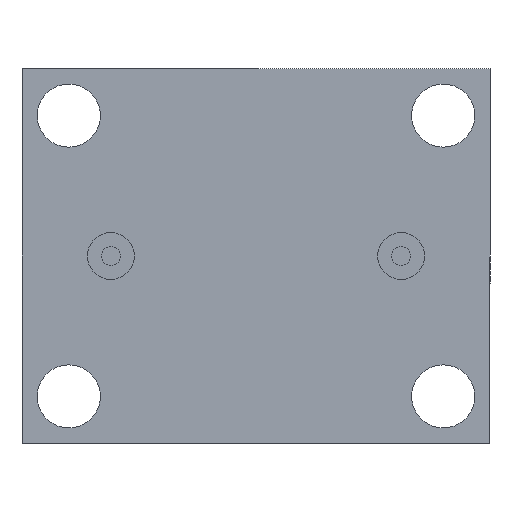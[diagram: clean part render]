
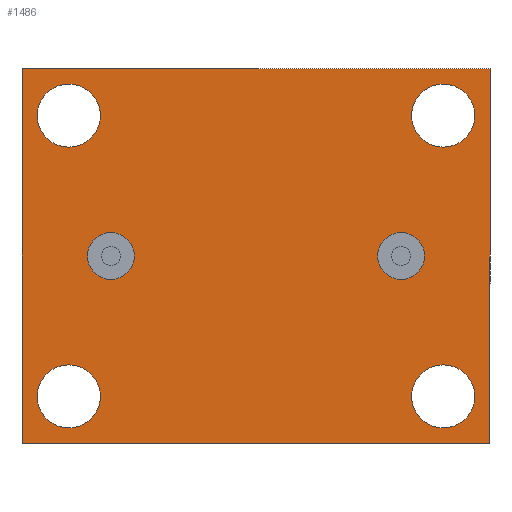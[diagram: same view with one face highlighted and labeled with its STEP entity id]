
A CAD part, front view. The second image highlights one B-rep face of the part: STEP entity #1486.
In plain terms, the highlighted planar face has unit normal (0, -1, 0).
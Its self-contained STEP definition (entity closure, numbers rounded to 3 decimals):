
#3 = VERTEX_POINT ( 'NONE', #415 ) ;
#4 = DIRECTION ( 'NONE',  ( 0., 1., 0. ) ) ;
#18 = CARTESIAN_POINT ( 'NONE',  ( -50., 0., -40. ) ) ;
#20 = DIRECTION ( 'NONE',  ( 0., 0., 1. ) ) ;
#26 = ORIENTED_EDGE ( 'NONE', *, *, #260, .F. ) ;
#29 = CARTESIAN_POINT ( 'NONE',  ( -31., 0., 0. ) ) ;
#32 = DIRECTION ( 'NONE',  ( 0., 0., -1. ) ) ;
#41 = CARTESIAN_POINT ( 'NONE',  ( 40., 0., -30. ) ) ;
#78 = AXIS2_PLACEMENT_3D ( 'NONE', #1452, #860, #1319 ) ;
#86 = CARTESIAN_POINT ( 'NONE',  ( -50., 0., -40. ) ) ;
#92 = DIRECTION ( 'NONE',  ( 0., 0., 1. ) ) ;
#94 = CIRCLE ( 'NONE', #78, 6.75 ) ;
#109 = EDGE_CURVE ( 'NONE', #296, #1290, #402, .T. ) ;
#120 = CIRCLE ( 'NONE', #680, 6.75 ) ;
#133 = CARTESIAN_POINT ( 'NONE',  ( 31., 0., 0. ) ) ;
#142 = CARTESIAN_POINT ( 'NONE',  ( 31., 0., 0. ) ) ;
#152 = DIRECTION ( 'NONE',  ( 0., 0., 1. ) ) ;
#154 = VERTEX_POINT ( 'NONE', #600 ) ;
#163 = ORIENTED_EDGE ( 'NONE', *, *, #1519, .T. ) ;
#169 = CARTESIAN_POINT ( 'NONE',  ( -50., 0., -40. ) ) ;
#177 = CIRCLE ( 'NONE', #1099, 6.75 ) ;
#185 = DIRECTION ( 'NONE',  ( 0., 0., 1. ) ) ;
#187 = AXIS2_PLACEMENT_3D ( 'NONE', #1081, #1213, #471 ) ;
#197 = ORIENTED_EDGE ( 'NONE', *, *, #109, .T. ) ;
#203 = VERTEX_POINT ( 'NONE', #1491 ) ;
#206 = AXIS2_PLACEMENT_3D ( 'NONE', #236, #4, #832 ) ;
#208 = FACE_BOUND ( 'NONE', #605, .T. ) ;
#214 = CIRCLE ( 'NONE', #732, 6.75 ) ;
#231 = FACE_BOUND ( 'NONE', #976, .T. ) ;
#236 = CARTESIAN_POINT ( 'NONE',  ( 40., 0., -30. ) ) ;
#260 = EDGE_CURVE ( 'NONE', #1527, #154, #1199, .T. ) ;
#261 = DIRECTION ( 'NONE',  ( 0., 0., -1. ) ) ;
#265 = DIRECTION ( 'NONE',  ( -1., 0., 0. ) ) ;
#276 = EDGE_CURVE ( 'NONE', #705, #1512, #313, .T. ) ;
#293 = CARTESIAN_POINT ( 'NONE',  ( -31., 0., 0. ) ) ;
#296 = VERTEX_POINT ( 'NONE', #958 ) ;
#302 = ORIENTED_EDGE ( 'NONE', *, *, #947, .F. ) ;
#306 = EDGE_CURVE ( 'NONE', #1290, #296, #513, .T. ) ;
#311 = VERTEX_POINT ( 'NONE', #1480 ) ;
#313 = LINE ( 'NONE', #169, #1347 ) ;
#317 = ORIENTED_EDGE ( 'NONE', *, *, #1175, .F. ) ;
#351 = CARTESIAN_POINT ( 'NONE',  ( -50., 0., 40. ) ) ;
#355 = EDGE_CURVE ( 'NONE', #311, #846, #120, .T. ) ;
#359 = DIRECTION ( 'NONE',  ( 0., 0., 1. ) ) ;
#365 = LINE ( 'NONE', #1103, #1014 ) ;
#375 = DIRECTION ( 'NONE',  ( 0., 1., 0. ) ) ;
#383 = VERTEX_POINT ( 'NONE', #1122 ) ;
#402 = CIRCLE ( 'NONE', #206, 6.75 ) ;
#415 = CARTESIAN_POINT ( 'NONE',  ( 31., 0., 5. ) ) ;
#430 = EDGE_CURVE ( 'NONE', #203, #1408, #214, .T. ) ;
#432 = AXIS2_PLACEMENT_3D ( 'NONE', #1449, #1439, #20 ) ;
#444 = CARTESIAN_POINT ( 'NONE',  ( 0., 0., 0. ) ) ;
#452 = LINE ( 'NONE', #18, #965 ) ;
#471 = DIRECTION ( 'NONE',  ( 0., 0., 1. ) ) ;
#500 = DIRECTION ( 'NONE',  ( 0., 0., -1. ) ) ;
#513 = CIRCLE ( 'NONE', #785, 6.75 ) ;
#520 = VERTEX_POINT ( 'NONE', #1505 ) ;
#526 = CARTESIAN_POINT ( 'NONE',  ( 40., 0., 30. ) ) ;
#528 = CARTESIAN_POINT ( 'NONE',  ( -40., 0., 23.25 ) ) ;
#532 = DIRECTION ( 'NONE',  ( 0., 0., -1. ) ) ;
#578 = CARTESIAN_POINT ( 'NONE',  ( 40., 0., 23.25 ) ) ;
#594 = ORIENTED_EDGE ( 'NONE', *, *, #355, .T. ) ;
#600 = CARTESIAN_POINT ( 'NONE',  ( -31., 0., 5. ) ) ;
#604 = AXIS2_PLACEMENT_3D ( 'NONE', #29, #626, #32 ) ;
#605 = EDGE_LOOP ( 'NONE', ( #1297, #1472 ) ) ;
#619 = ORIENTED_EDGE ( 'NONE', *, *, #1164, .T. ) ;
#626 = DIRECTION ( 'NONE',  ( 0., -1., 0. ) ) ;
#642 = EDGE_LOOP ( 'NONE', ( #163, #594 ) ) ;
#680 = AXIS2_PLACEMENT_3D ( 'NONE', #957, #1388, #185 ) ;
#682 = ORIENTED_EDGE ( 'NONE', *, *, #908, .F. ) ;
#703 = CIRCLE ( 'NONE', #898, 5. ) ;
#705 = VERTEX_POINT ( 'NONE', #86 ) ;
#722 = VECTOR ( 'NONE', #831, 1000. ) ;
#728 = ORIENTED_EDGE ( 'NONE', *, *, #1302, .F. ) ;
#732 = AXIS2_PLACEMENT_3D ( 'NONE', #526, #1132, #1375 ) ;
#738 = CIRCLE ( 'NONE', #1124, 5. ) ;
#745 = DIRECTION ( 'NONE',  ( 0., 0., -1. ) ) ;
#757 = LINE ( 'NONE', #809, #722 ) ;
#776 = DIRECTION ( 'NONE',  ( 0., -1., 0. ) ) ;
#778 = FACE_BOUND ( 'NONE', #830, .T. ) ;
#785 = AXIS2_PLACEMENT_3D ( 'NONE', #41, #375, #359 ) ;
#788 = EDGE_LOOP ( 'NONE', ( #197, #1332 ) ) ;
#795 = CIRCLE ( 'NONE', #187, 6.75 ) ;
#809 = CARTESIAN_POINT ( 'NONE',  ( -50., 0., 40. ) ) ;
#813 = PLANE ( 'NONE',  #1514 ) ;
#816 = DIRECTION ( 'NONE',  ( 0., 0., 1. ) ) ;
#824 = CARTESIAN_POINT ( 'NONE',  ( 40., 0., -36.75 ) ) ;
#830 = EDGE_LOOP ( 'NONE', ( #619, #1036 ) ) ;
#831 = DIRECTION ( 'NONE',  ( 1., 0., 0. ) ) ;
#832 = DIRECTION ( 'NONE',  ( 0., 0., 1. ) ) ;
#845 = CARTESIAN_POINT ( 'NONE',  ( -31., 0., -5. ) ) ;
#846 = VERTEX_POINT ( 'NONE', #854 ) ;
#854 = CARTESIAN_POINT ( 'NONE',  ( -40., 0., -23.25 ) ) ;
#860 = DIRECTION ( 'NONE',  ( 0., 1., 0. ) ) ;
#879 = EDGE_CURVE ( 'NONE', #1006, #520, #1434, .T. ) ;
#884 = VERTEX_POINT ( 'NONE', #1093 ) ;
#898 = AXIS2_PLACEMENT_3D ( 'NONE', #142, #1097, #745 ) ;
#908 = EDGE_CURVE ( 'NONE', #3, #884, #703, .T. ) ;
#947 = EDGE_CURVE ( 'NONE', #154, #1527, #985, .T. ) ;
#957 = CARTESIAN_POINT ( 'NONE',  ( -40., 0., -30. ) ) ;
#958 = CARTESIAN_POINT ( 'NONE',  ( 40., 0., -23.25 ) ) ;
#965 = VECTOR ( 'NONE', #265, 1000. ) ;
#975 = DIRECTION ( 'NONE',  ( 0., -1., 0. ) ) ;
#976 = EDGE_LOOP ( 'NONE', ( #317, #682 ) ) ;
#985 = CIRCLE ( 'NONE', #604, 5. ) ;
#1002 = ORIENTED_EDGE ( 'NONE', *, *, #1255, .F. ) ;
#1006 = VERTEX_POINT ( 'NONE', #528 ) ;
#1014 = VECTOR ( 'NONE', #500, 1000. ) ;
#1036 = ORIENTED_EDGE ( 'NONE', *, *, #879, .T. ) ;
#1040 = EDGE_LOOP ( 'NONE', ( #26, #302 ) ) ;
#1042 = CARTESIAN_POINT ( 'NONE',  ( 40., 0., 30. ) ) ;
#1071 = FACE_BOUND ( 'NONE', #788, .T. ) ;
#1081 = CARTESIAN_POINT ( 'NONE',  ( -40., 0., -30. ) ) ;
#1085 = ORIENTED_EDGE ( 'NONE', *, *, #1156, .F. ) ;
#1093 = CARTESIAN_POINT ( 'NONE',  ( 31., 0., -5. ) ) ;
#1096 = CARTESIAN_POINT ( 'NONE',  ( 50., 0., -40. ) ) ;
#1097 = DIRECTION ( 'NONE',  ( 0., -1., 0. ) ) ;
#1099 = AXIS2_PLACEMENT_3D ( 'NONE', #1042, #1414, #92 ) ;
#1103 = CARTESIAN_POINT ( 'NONE',  ( 50., 0., -40. ) ) ;
#1121 = EDGE_LOOP ( 'NONE', ( #1002, #728, #1389, #1085 ) ) ;
#1122 = CARTESIAN_POINT ( 'NONE',  ( 50., 0., 40. ) ) ;
#1124 = AXIS2_PLACEMENT_3D ( 'NONE', #133, #975, #261 ) ;
#1132 = DIRECTION ( 'NONE',  ( 0., 1., 0. ) ) ;
#1156 = EDGE_CURVE ( 'NONE', #1230, #705, #452, .T. ) ;
#1164 = EDGE_CURVE ( 'NONE', #520, #1006, #94, .T. ) ;
#1165 = FACE_OUTER_BOUND ( 'NONE', #1121, .T. ) ;
#1175 = EDGE_CURVE ( 'NONE', #884, #3, #738, .T. ) ;
#1176 = DIRECTION ( 'NONE',  ( 0., 1., 0. ) ) ;
#1190 = FACE_BOUND ( 'NONE', #642, .T. ) ;
#1199 = CIRCLE ( 'NONE', #1280, 5. ) ;
#1213 = DIRECTION ( 'NONE',  ( 0., 1., 0. ) ) ;
#1230 = VERTEX_POINT ( 'NONE', #1096 ) ;
#1255 = EDGE_CURVE ( 'NONE', #383, #1230, #365, .T. ) ;
#1280 = AXIS2_PLACEMENT_3D ( 'NONE', #293, #776, #532 ) ;
#1290 = VERTEX_POINT ( 'NONE', #824 ) ;
#1297 = ORIENTED_EDGE ( 'NONE', *, *, #430, .T. ) ;
#1302 = EDGE_CURVE ( 'NONE', #1512, #383, #757, .T. ) ;
#1319 = DIRECTION ( 'NONE',  ( 0., 0., 1. ) ) ;
#1332 = ORIENTED_EDGE ( 'NONE', *, *, #306, .T. ) ;
#1347 = VECTOR ( 'NONE', #152, 1000. ) ;
#1375 = DIRECTION ( 'NONE',  ( 0., 0., 1. ) ) ;
#1383 = EDGE_CURVE ( 'NONE', #1408, #203, #177, .T. ) ;
#1388 = DIRECTION ( 'NONE',  ( 0., 1., 0. ) ) ;
#1389 = ORIENTED_EDGE ( 'NONE', *, *, #276, .F. ) ;
#1408 = VERTEX_POINT ( 'NONE', #578 ) ;
#1414 = DIRECTION ( 'NONE',  ( 0., 1., 0. ) ) ;
#1434 = CIRCLE ( 'NONE', #432, 6.75 ) ;
#1439 = DIRECTION ( 'NONE',  ( 0., 1., 0. ) ) ;
#1449 = CARTESIAN_POINT ( 'NONE',  ( -40., 0., 30. ) ) ;
#1452 = CARTESIAN_POINT ( 'NONE',  ( -40., 0., 30. ) ) ;
#1472 = ORIENTED_EDGE ( 'NONE', *, *, #1383, .T. ) ;
#1480 = CARTESIAN_POINT ( 'NONE',  ( -40., 0., -36.75 ) ) ;
#1486 = ADVANCED_FACE ( 'NONE', ( #1515, #231, #1071, #208, #778, #1190, #1165 ), #813, .F. ) ;
#1491 = CARTESIAN_POINT ( 'NONE',  ( 40., 0., 36.75 ) ) ;
#1505 = CARTESIAN_POINT ( 'NONE',  ( -40., 0., 36.75 ) ) ;
#1512 = VERTEX_POINT ( 'NONE', #351 ) ;
#1514 = AXIS2_PLACEMENT_3D ( 'NONE', #444, #1176, #816 ) ;
#1515 = FACE_BOUND ( 'NONE', #1040, .T. ) ;
#1519 = EDGE_CURVE ( 'NONE', #846, #311, #795, .T. ) ;
#1527 = VERTEX_POINT ( 'NONE', #845 ) ;
